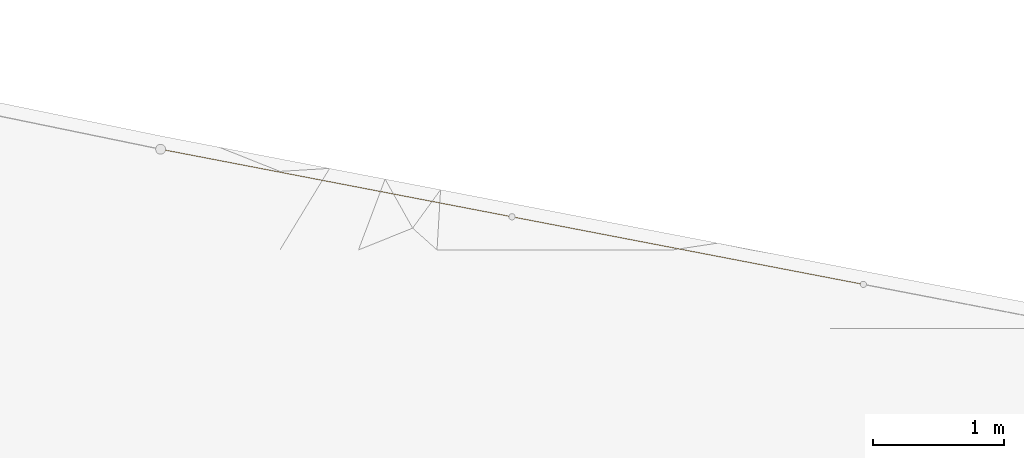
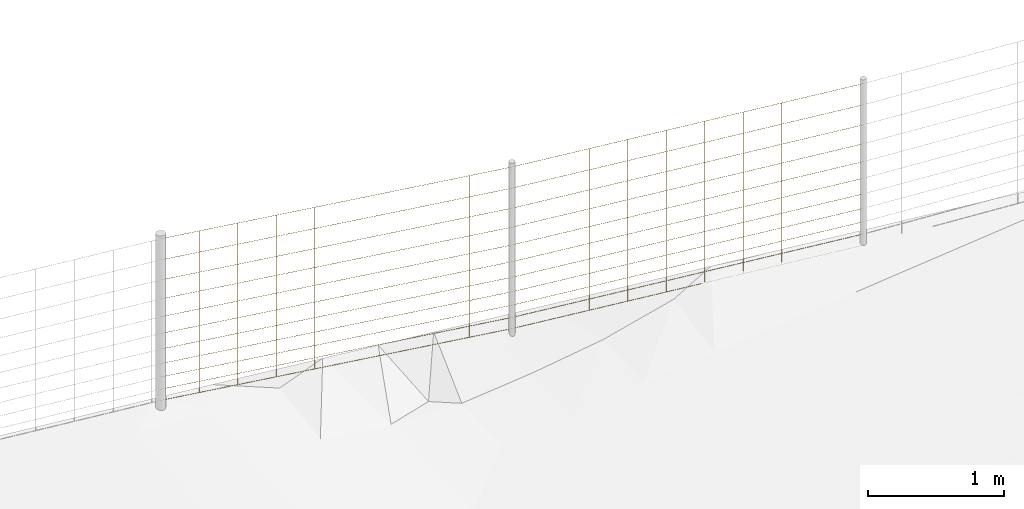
# Not in any storey, part 34 of 72: 2 railings.
"""IFC4 model written with IfcOpenShell, lengths in metres."""

from ifc_helpers import new_model, si_unit, direction, frame, origin_with_axes, place, context, subcontext, project, spatial, polygons, material, element, save


model = new_model("IFC4")

# Units and contexts
model_context = context("Model", 3, precision=1e-05, world=origin_with_axes(), true_north=direction((0.0, 1.0)))
body_context = subcontext(model_context, "Body", "Model", "MODEL_VIEW")
ifc_project = project(units=[si_unit("AREAUNIT", "SQUARE_METRE"), si_unit("VOLUMEUNIT", "CUBIC_METRE"), si_unit("LENGTHUNIT", "METRE")], contexts=[model_context])

# Site
site_placement = place(None, origin_with_axes())
site = spatial("IfcSite", under=ifc_project, at=site_placement, Name="Lares · Rua das Mercês · artigo 4771")

# Railings
ifc_material = material(Name="Aço galvanizado / Stahl verzinkt", Category="steel")
railing_1_placement = place(site_placement, frame((0.0, 0.0, 0.0), z_axis=(0.0, 0.0, 1.0), x_axis=(1.0, -1.03767253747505e-17, 0.0)))
element("IfcRailing", 1, at=railing_1_placement, inside=site, material=ifc_material, Name="Vedação · rede ovelheira 1.056", ObjectType="SHEEP_WIRE_FENCE", PredefinedType="USERDEFINED", context=body_context, shape_type="Tessellation", body=[
    polygons([(13.9818012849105, 21.8083476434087, 13.9714462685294), (13.9820942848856, 21.8098187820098, 13.9699463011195), (13.9823678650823, 21.8112936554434, 13.9714462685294), (13.9820748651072, 21.8098225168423, 13.9729462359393), (16.6662490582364, 21.2920717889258, 13.9894665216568), (16.6665420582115, 21.293542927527, 13.9879665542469), (16.6668156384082, 21.2950178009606, 13.9894665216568), (16.666522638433, 21.2935466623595, 13.9909664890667), (13.9818012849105, 21.8083476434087, 14.0714462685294), (13.9820942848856, 21.8098187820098, 14.0699463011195), (13.9823678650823, 21.8112936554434, 14.0714462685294), (13.9820748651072, 21.8098225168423, 14.0729462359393), (16.6662490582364, 21.2920717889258, 14.0894665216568), (16.6665420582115, 21.293542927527, 14.0879665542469), (16.6668156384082, 21.2950178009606, 14.0894665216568), (16.666522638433, 21.2935466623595, 14.0909664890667), (13.9818012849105, 21.8083476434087, 14.1814462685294), (13.9820942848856, 21.8098187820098, 14.1799463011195), (13.9823678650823, 21.8112936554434, 14.1814462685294), (13.9820748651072, 21.8098225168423, 14.1829462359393), (16.6662490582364, 21.2920717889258, 14.1994665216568), (16.6665420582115, 21.293542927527, 14.1979665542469), (16.6668156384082, 21.2950178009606, 14.1994665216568), (16.666522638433, 21.2935466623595, 14.2009664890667), (13.9818012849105, 21.8083476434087, 14.3014462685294), (13.9820942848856, 21.8098187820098, 14.2999463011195), (13.9823678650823, 21.8112936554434, 14.3014462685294), (13.9820748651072, 21.8098225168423, 14.3029462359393), (16.6662490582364, 21.2920717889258, 14.3194665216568), (16.6665420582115, 21.293542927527, 14.3179665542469), (16.6668156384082, 21.2950178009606, 14.3194665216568), (16.666522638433, 21.2935466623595, 14.3209664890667), (13.9818012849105, 21.8083476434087, 14.4314462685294), (13.9820942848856, 21.8098187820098, 14.4299463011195), (13.9823678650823, 21.8112936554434, 14.4314462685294), (13.9820748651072, 21.8098225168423, 14.4329462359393), (16.6662490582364, 21.2920717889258, 14.4494665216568), (16.6665420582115, 21.293542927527, 14.4479665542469), (16.6668156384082, 21.2950178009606, 14.4494665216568), (16.666522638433, 21.2935466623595, 14.4509664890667), (13.9818012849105, 21.8083476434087, 14.5714462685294), (13.9820942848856, 21.8098187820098, 14.5699463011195), (13.9823678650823, 21.8112936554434, 14.5714462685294), (13.9820748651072, 21.8098225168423, 14.5729462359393), (16.6662490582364, 21.2920717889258, 14.5894665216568), (16.6665420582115, 21.293542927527, 14.5879665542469), (16.6668156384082, 21.2950178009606, 14.5894665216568), (16.666522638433, 21.2935466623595, 14.5909664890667), (13.9818012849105, 21.8083476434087, 14.7214462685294), (13.9820942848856, 21.8098187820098, 14.7199463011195), (13.9823678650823, 21.8112936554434, 14.7214462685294), (13.9820748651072, 21.8098225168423, 14.7229462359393), (16.6662490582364, 21.2920717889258, 14.7394665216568), (16.6665420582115, 21.293542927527, 14.7379665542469), (16.6668156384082, 21.2950178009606, 14.7394665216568), (16.666522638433, 21.2935466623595, 14.7409664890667), (13.9818012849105, 21.8083476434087, 14.8814462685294), (13.9820942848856, 21.8098187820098, 14.8799463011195), (13.9823678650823, 21.8112936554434, 14.8814462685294), (13.9820748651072, 21.8098225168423, 14.8829462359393), (16.6662490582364, 21.2920717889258, 14.8994665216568), (16.6665420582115, 21.293542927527, 14.8979665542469), (16.6668156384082, 21.2950178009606, 14.8994665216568), (16.666522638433, 21.2935466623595, 14.9009664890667), (13.9818012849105, 21.8083476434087, 15.0514462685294), (13.9820942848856, 21.8098187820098, 15.0499463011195), (13.9823678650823, 21.8112936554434, 15.0514462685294), (13.9820748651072, 21.8098225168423, 15.0529462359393), (16.6662490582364, 21.2920717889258, 15.0694665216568), (16.6665420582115, 21.293542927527, 15.0679665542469), (16.6668156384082, 21.2950178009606, 15.0694665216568), (16.666522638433, 21.2935466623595, 15.0709664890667), (13.9818012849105, 21.8083476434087, 15.2314462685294), (13.9820942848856, 21.8098187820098, 15.2299463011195), (13.9823678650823, 21.8112936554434, 15.2314462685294), (13.9820748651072, 21.8098225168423, 15.2329462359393), (16.6662490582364, 21.2920717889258, 15.2494665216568), (16.6665420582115, 21.293542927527, 15.2479665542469), (16.6668156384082, 21.2950178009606, 15.2494665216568), (16.666522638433, 21.2935466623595, 15.2509664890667), (13.9818012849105, 21.8083476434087, 15.4214462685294), (13.9820942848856, 21.8098187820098, 15.4199463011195), (13.9823678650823, 21.8112936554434, 15.4214462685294), (13.9820748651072, 21.8098225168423, 15.4229462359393), (16.6662490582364, 21.2920717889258, 15.4394665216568), (16.6665420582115, 21.293542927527, 15.4379665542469), (16.6668156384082, 21.2950178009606, 15.4394665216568), (16.666522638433, 21.2935466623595, 15.4409664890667), (14.2766857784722, 21.7546626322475, 13.9734238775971), (14.2751857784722, 21.7531626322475, 13.9734238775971), (14.2766857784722, 21.7516626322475, 13.9734238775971), (14.2781857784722, 21.7531626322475, 13.9734238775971), (14.2766857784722, 21.7546626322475, 15.4234238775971), (14.2751857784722, 21.7531626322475, 15.4234238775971), (14.2766857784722, 21.7516626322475, 15.4234238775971), (14.2781857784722, 21.7531626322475, 15.4234238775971), (14.571286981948, 21.6980046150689, 13.9754014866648), (14.569786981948, 21.6965046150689, 13.9754014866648), (14.571286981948, 21.6950046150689, 13.9754014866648), (14.572786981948, 21.6965046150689, 13.9754014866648), (14.571286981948, 21.6980046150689, 15.4254014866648), (14.569786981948, 21.6965046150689, 15.4254014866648), (14.571286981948, 21.6950046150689, 15.4254014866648), (14.572786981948, 21.6965046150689, 15.4254014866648), (14.8658881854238, 21.6413465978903, 13.9773790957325), (14.8643881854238, 21.6398465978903, 13.9773790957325), (14.8658881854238, 21.6383465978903, 13.9773790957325), (14.8673881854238, 21.6398465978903, 13.9773790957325), (14.8658881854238, 21.6413465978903, 15.4273790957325), (14.8643881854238, 21.6398465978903, 15.4273790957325), (14.8658881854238, 21.6383465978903, 15.4273790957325), (14.8673881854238, 21.6398465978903, 15.4273790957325), (15.1604893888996, 21.5846885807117, 13.9793567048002), (15.1589893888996, 21.5831885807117, 13.9793567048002), (15.1604893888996, 21.5816885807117, 13.9793567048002), (15.1619893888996, 21.5831885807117, 13.9793567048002), (15.1604893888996, 21.5846885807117, 15.4293567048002), (15.1589893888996, 21.5831885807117, 15.4293567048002), (15.1604893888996, 21.5816885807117, 15.4293567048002), (15.1619893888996, 21.5831885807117, 15.4293567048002), (15.4550905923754, 21.5280305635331, 13.9813343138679), (15.4535905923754, 21.5265305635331, 13.9813343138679), (15.4550905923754, 21.5250305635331, 13.9813343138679), (15.4565905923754, 21.5265305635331, 13.9813343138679), (15.4550905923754, 21.5280305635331, 15.4313343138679), (15.4535905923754, 21.5265305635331, 15.4313343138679), (15.4550905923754, 21.5250305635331, 15.4313343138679), (15.4565905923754, 21.5265305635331, 15.4313343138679), (15.7496917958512, 21.4713725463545, 13.9833119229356), (15.7481917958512, 21.4698725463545, 13.9833119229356), (15.7496917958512, 21.4683725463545, 13.9833119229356), (15.7511917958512, 21.4698725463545, 13.9833119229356), (15.7496917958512, 21.4713725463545, 15.4333119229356), (15.7481917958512, 21.4698725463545, 15.4333119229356), (15.7496917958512, 21.4683725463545, 15.4333119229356), (15.7511917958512, 21.4698725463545, 15.4333119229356), (16.044292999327, 21.4147145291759, 13.9852895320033), (16.042792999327, 21.4132145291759, 13.9852895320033), (16.044292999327, 21.4117145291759, 13.9852895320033), (16.045792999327, 21.4132145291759, 13.9852895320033), (16.044292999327, 21.4147145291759, 15.4352895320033), (16.042792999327, 21.4132145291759, 15.4352895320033), (16.044292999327, 21.4117145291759, 15.4352895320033), (16.045792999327, 21.4132145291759, 15.4352895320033), (16.3388942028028, 21.3580565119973, 13.9872671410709), (16.3373942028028, 21.3565565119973, 13.9872671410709), (16.3388942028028, 21.3550565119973, 13.9872671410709), (16.3403942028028, 21.3565565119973, 13.9872671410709), (16.3388942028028, 21.3580565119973, 15.4372671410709), (16.3373942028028, 21.3565565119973, 15.4372671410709), (16.3388942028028, 21.3550565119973, 15.4372671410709), (16.3403942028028, 21.3565565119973, 15.4372671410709)], [[[4, 3, 2, 1]], [[5, 6, 7, 8]], [[1, 2, 6, 5]], [[2, 3, 7, 6]], [[3, 4, 8, 7]], [[4, 1, 5, 8]], [[12, 11, 10, 9]], [[13, 14, 15, 16]], [[9, 10, 14, 13]], [[10, 11, 15, 14]], [[11, 12, 16, 15]], [[12, 9, 13, 16]], [[20, 19, 18, 17]], [[21, 22, 23, 24]], [[17, 18, 22, 21]], [[18, 19, 23, 22]], [[19, 20, 24, 23]], [[20, 17, 21, 24]], [[28, 27, 26, 25]], [[29, 30, 31, 32]], [[25, 26, 30, 29]], [[26, 27, 31, 30]], [[27, 28, 32, 31]], [[28, 25, 29, 32]], [[36, 35, 34, 33]], [[37, 38, 39, 40]], [[33, 34, 38, 37]], [[34, 35, 39, 38]], [[35, 36, 40, 39]], [[36, 33, 37, 40]], [[44, 43, 42, 41]], [[45, 46, 47, 48]], [[41, 42, 46, 45]], [[42, 43, 47, 46]], [[43, 44, 48, 47]], [[44, 41, 45, 48]], [[52, 51, 50, 49]], [[53, 54, 55, 56]], [[49, 50, 54, 53]], [[50, 51, 55, 54]], [[51, 52, 56, 55]], [[52, 49, 53, 56]], [[60, 59, 58, 57]], [[61, 62, 63, 64]], [[57, 58, 62, 61]], [[58, 59, 63, 62]], [[59, 60, 64, 63]], [[60, 57, 61, 64]], [[68, 67, 66, 65]], [[69, 70, 71, 72]], [[65, 66, 70, 69]], [[66, 67, 71, 70]], [[67, 68, 72, 71]], [[68, 65, 69, 72]], [[76, 75, 74, 73]], [[77, 78, 79, 80]], [[73, 74, 78, 77]], [[74, 75, 79, 78]], [[75, 76, 80, 79]], [[76, 73, 77, 80]], [[84, 83, 82, 81]], [[85, 86, 87, 88]], [[81, 82, 86, 85]], [[82, 83, 87, 86]], [[83, 84, 88, 87]], [[84, 81, 85, 88]], [[92, 91, 90, 89]], [[93, 94, 95, 96]], [[89, 90, 94, 93]], [[90, 91, 95, 94]], [[91, 92, 96, 95]], [[92, 89, 93, 96]], [[100, 99, 98, 97]], [[101, 102, 103, 104]], [[97, 98, 102, 101]], [[98, 99, 103, 102]], [[99, 100, 104, 103]], [[100, 97, 101, 104]], [[108, 107, 106, 105]], [[109, 110, 111, 112]], [[105, 106, 110, 109]], [[106, 107, 111, 110]], [[107, 108, 112, 111]], [[108, 105, 109, 112]], [[116, 115, 114, 113]], [[117, 118, 119, 120]], [[113, 114, 118, 117]], [[114, 115, 119, 118]], [[115, 116, 120, 119]], [[116, 113, 117, 120]], [[124, 123, 122, 121]], [[125, 126, 127, 128]], [[121, 122, 126, 125]], [[122, 123, 127, 126]], [[123, 124, 128, 127]], [[124, 121, 125, 128]], [[132, 131, 130, 129]], [[133, 134, 135, 136]], [[129, 130, 134, 133]], [[130, 131, 135, 134]], [[131, 132, 136, 135]], [[132, 129, 133, 136]], [[140, 139, 138, 137]], [[141, 142, 143, 144]], [[137, 138, 142, 141]], [[138, 139, 143, 142]], [[139, 140, 144, 143]], [[140, 137, 141, 144]], [[148, 147, 146, 145]], [[149, 150, 151, 152]], [[145, 146, 150, 149]], [[146, 147, 151, 150]], [[147, 148, 152, 151]], [[148, 145, 149, 152]]]),
])
railing_2_placement = place(site_placement, frame((0.0, 0.0, 0.0), z_axis=(0.0, 0.0, 1.0), x_axis=(1.0, -1.03767253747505e-17, 0.0)))
element("IfcRailing", 2, at=railing_2_placement, inside=site, material=ifc_material, Name="Vedação · rede ovelheira 1.057", ObjectType="SHEEP_WIRE_FENCE", PredefinedType="USERDEFINED", context=body_context, shape_type="Tessellation", body=[
    polygons([(16.6662490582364, 21.2920717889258, 13.9894665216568), (16.6665978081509, 21.2935322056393, 13.9879680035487), (16.6668156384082, 21.2950178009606, 13.9894665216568), (16.6664668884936, 21.2935573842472, 13.9909650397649), (19.3506968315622, 20.775795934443, 14.1110686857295), (19.3510455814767, 20.7772563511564, 14.1095701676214), (19.351263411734, 20.7787419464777, 14.1110686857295), (19.3509146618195, 20.7772815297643, 14.1125672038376), (16.6662490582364, 21.2920717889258, 14.0894665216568), (16.6665978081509, 21.2935322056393, 14.0879680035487), (16.6668156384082, 21.2950178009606, 14.0894665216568), (16.6664668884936, 21.2935573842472, 14.0909650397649), (19.3506968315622, 20.775795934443, 14.2110686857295), (19.3510455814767, 20.7772563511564, 14.2095701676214), (19.351263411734, 20.7787419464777, 14.2110686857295), (19.3509146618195, 20.7772815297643, 14.2125672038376), (16.6662490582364, 21.2920717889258, 14.1994665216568), (16.6665978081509, 21.2935322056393, 14.1979680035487), (16.6668156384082, 21.2950178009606, 14.1994665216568), (16.6664668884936, 21.2935573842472, 14.2009650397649), (19.3506968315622, 20.775795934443, 14.3210686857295), (19.3510455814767, 20.7772563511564, 14.3195701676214), (19.351263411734, 20.7787419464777, 14.3210686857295), (19.3509146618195, 20.7772815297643, 14.3225672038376), (16.6662490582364, 21.2920717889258, 14.3194665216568), (16.6665978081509, 21.2935322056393, 14.3179680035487), (16.6668156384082, 21.2950178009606, 14.3194665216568), (16.6664668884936, 21.2935573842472, 14.3209650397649), (19.3506968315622, 20.775795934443, 14.4410686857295), (19.3510455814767, 20.7772563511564, 14.4395701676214), (19.351263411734, 20.7787419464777, 14.4410686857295), (19.3509146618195, 20.7772815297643, 14.4425672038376), (16.6662490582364, 21.2920717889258, 14.4494665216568), (16.6665978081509, 21.2935322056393, 14.4479680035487), (16.6668156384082, 21.2950178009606, 14.4494665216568), (16.6664668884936, 21.2935573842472, 14.4509650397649), (19.3506968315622, 20.775795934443, 14.5710686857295), (19.3510455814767, 20.7772563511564, 14.5695701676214), (19.351263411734, 20.7787419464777, 14.5710686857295), (19.3509146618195, 20.7772815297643, 14.5725672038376), (16.6662490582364, 21.2920717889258, 14.5894665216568), (16.6665978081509, 21.2935322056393, 14.5879680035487), (16.6668156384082, 21.2950178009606, 14.5894665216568), (16.6664668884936, 21.2935573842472, 14.5909650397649), (19.3506968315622, 20.775795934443, 14.7110686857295), (19.3510455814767, 20.7772563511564, 14.7095701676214), (19.351263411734, 20.7787419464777, 14.7110686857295), (19.3509146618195, 20.7772815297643, 14.7125672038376), (16.6662490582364, 21.2920717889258, 14.7394665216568), (16.6665978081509, 21.2935322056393, 14.7379680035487), (16.6668156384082, 21.2950178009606, 14.7394665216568), (16.6664668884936, 21.2935573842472, 14.7409650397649), (19.3506968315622, 20.775795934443, 14.8610686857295), (19.3510455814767, 20.7772563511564, 14.8595701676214), (19.351263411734, 20.7787419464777, 14.8610686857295), (19.3509146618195, 20.7772815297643, 14.8625672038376), (16.6662490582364, 21.2920717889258, 14.8994665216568), (16.6665978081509, 21.2935322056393, 14.8979680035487), (16.6668156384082, 21.2950178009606, 14.8994665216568), (16.6664668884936, 21.2935573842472, 14.9009650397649), (19.3506968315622, 20.775795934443, 15.0210686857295), (19.3510455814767, 20.7772563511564, 15.0195701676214), (19.351263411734, 20.7787419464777, 15.0210686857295), (19.3509146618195, 20.7772815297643, 15.0225672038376), (16.6662490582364, 21.2920717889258, 15.0694665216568), (16.6665978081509, 21.2935322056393, 15.0679680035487), (16.6668156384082, 21.2950178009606, 15.0694665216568), (16.6664668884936, 21.2935573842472, 15.0709650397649), (19.3506968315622, 20.775795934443, 15.1910686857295), (19.3510455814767, 20.7772563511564, 15.1895701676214), (19.351263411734, 20.7787419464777, 15.1910686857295), (19.3509146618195, 20.7772815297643, 15.1925672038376), (16.6662490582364, 21.2920717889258, 15.2494665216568), (16.6665978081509, 21.2935322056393, 15.2479680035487), (16.6668156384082, 21.2950178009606, 15.2494665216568), (16.6664668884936, 21.2935573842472, 15.2509650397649), (19.3506968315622, 20.775795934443, 15.3710686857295), (19.3510455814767, 20.7772563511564, 15.3695701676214), (19.351263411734, 20.7787419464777, 15.3710686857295), (19.3509146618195, 20.7772815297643, 15.3725672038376), (16.6662490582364, 21.2920717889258, 15.4394665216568), (16.6665978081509, 21.2935322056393, 15.4379680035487), (16.6668156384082, 21.2950178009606, 15.4394665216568), (16.6664668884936, 21.2935573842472, 15.4409650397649), (19.3506968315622, 20.775795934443, 15.5610686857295), (19.3510455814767, 20.7772563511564, 15.5595701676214), (19.351263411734, 20.7787419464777, 15.5610686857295), (19.3509146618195, 20.7772815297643, 15.5625672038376), (16.9611335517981, 21.2383867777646, 14.0028115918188), (16.9596335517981, 21.2368867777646, 14.0028115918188), (16.9611335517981, 21.2353867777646, 14.0028115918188), (16.9626335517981, 21.2368867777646, 14.0028115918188), (16.9611335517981, 21.2383867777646, 15.4528115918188), (16.9596335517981, 21.2368867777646, 15.4528115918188), (16.9611335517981, 21.2353867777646, 15.4528115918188), (16.9626335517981, 21.2368867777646, 15.4528115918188), (17.2557347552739, 21.181728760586, 14.0161566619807), (17.2542347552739, 21.180228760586, 14.0161566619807), (17.2557347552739, 21.178728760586, 14.0161566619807), (17.2572347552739, 21.180228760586, 14.0161566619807), (17.2557347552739, 21.181728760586, 15.4661566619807), (17.2542347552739, 21.180228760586, 15.4661566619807), (17.2557347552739, 21.178728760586, 15.4661566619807), (17.2572347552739, 21.180228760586, 15.4661566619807), (17.5503359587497, 21.1250707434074, 14.0295017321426), (17.5488359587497, 21.1235707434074, 14.0295017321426), (17.5503359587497, 21.1220707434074, 14.0295017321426), (17.5518359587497, 21.1235707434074, 14.0295017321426), (17.5503359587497, 21.1250707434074, 15.4795017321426), (17.5488359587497, 21.1235707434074, 15.4795017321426), (17.5503359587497, 21.1220707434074, 15.4795017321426), (17.5518359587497, 21.1235707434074, 15.4795017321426), (17.8449371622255, 21.0684127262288, 14.0428468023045), (17.8434371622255, 21.0669127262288, 14.0428468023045), (17.8449371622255, 21.0654127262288, 14.0428468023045), (17.8464371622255, 21.0669127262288, 14.0428468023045), (17.8449371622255, 21.0684127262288, 15.4928468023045), (17.8434371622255, 21.0669127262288, 15.4928468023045), (17.8449371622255, 21.0654127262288, 15.4928468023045), (17.8464371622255, 21.0669127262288, 15.4928468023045), (18.1395383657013, 21.0117547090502, 14.0561918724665), (18.1380383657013, 21.0102547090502, 14.0561918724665), (18.1395383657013, 21.0087547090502, 14.0561918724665), (18.1410383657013, 21.0102547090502, 14.0561918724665), (18.1395383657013, 21.0117547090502, 15.5061918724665), (18.1380383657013, 21.0102547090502, 15.5061918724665), (18.1395383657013, 21.0087547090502, 15.5061918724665), (18.1410383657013, 21.0102547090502, 15.5061918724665), (18.4341395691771, 20.9550966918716, 14.0695369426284), (18.4326395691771, 20.9535966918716, 14.0695369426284), (18.4341395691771, 20.9520966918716, 14.0695369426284), (18.4356395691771, 20.9535966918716, 14.0695369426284), (18.4341395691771, 20.9550966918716, 15.5195369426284), (18.4326395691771, 20.9535966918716, 15.5195369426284), (18.4341395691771, 20.9520966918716, 15.5195369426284), (18.4356395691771, 20.9535966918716, 15.5195369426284), (18.7287407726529, 20.898438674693, 14.0828820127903), (18.7272407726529, 20.896938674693, 14.0828820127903), (18.7287407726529, 20.895438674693, 14.0828820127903), (18.7302407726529, 20.896938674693, 14.0828820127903), (18.7287407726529, 20.898438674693, 15.5328820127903), (18.7272407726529, 20.896938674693, 15.5328820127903), (18.7287407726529, 20.895438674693, 15.5328820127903), (18.7302407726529, 20.896938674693, 15.5328820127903), (19.0233419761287, 20.8417806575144, 14.0962270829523), (19.0218419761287, 20.8402806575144, 14.0962270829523), (19.0233419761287, 20.8387806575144, 14.0962270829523), (19.0248419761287, 20.8402806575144, 14.0962270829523), (19.0233419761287, 20.8417806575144, 15.5462270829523), (19.0218419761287, 20.8402806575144, 15.5462270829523), (19.0233419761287, 20.8387806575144, 15.5462270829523), (19.0248419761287, 20.8402806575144, 15.5462270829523)], [[[4, 3, 2, 1]], [[5, 6, 7, 8]], [[1, 2, 6, 5]], [[2, 3, 7, 6]], [[3, 4, 8, 7]], [[4, 1, 5, 8]], [[12, 11, 10, 9]], [[13, 14, 15, 16]], [[9, 10, 14, 13]], [[10, 11, 15, 14]], [[11, 12, 16, 15]], [[12, 9, 13, 16]], [[20, 19, 18, 17]], [[21, 22, 23, 24]], [[17, 18, 22, 21]], [[18, 19, 23, 22]], [[19, 20, 24, 23]], [[20, 17, 21, 24]], [[28, 27, 26, 25]], [[29, 30, 31, 32]], [[25, 26, 30, 29]], [[26, 27, 31, 30]], [[27, 28, 32, 31]], [[28, 25, 29, 32]], [[36, 35, 34, 33]], [[37, 38, 39, 40]], [[33, 34, 38, 37]], [[34, 35, 39, 38]], [[35, 36, 40, 39]], [[36, 33, 37, 40]], [[44, 43, 42, 41]], [[45, 46, 47, 48]], [[41, 42, 46, 45]], [[42, 43, 47, 46]], [[43, 44, 48, 47]], [[44, 41, 45, 48]], [[52, 51, 50, 49]], [[53, 54, 55, 56]], [[49, 50, 54, 53]], [[50, 51, 55, 54]], [[51, 52, 56, 55]], [[52, 49, 53, 56]], [[60, 59, 58, 57]], [[61, 62, 63, 64]], [[57, 58, 62, 61]], [[58, 59, 63, 62]], [[59, 60, 64, 63]], [[60, 57, 61, 64]], [[68, 67, 66, 65]], [[69, 70, 71, 72]], [[65, 66, 70, 69]], [[66, 67, 71, 70]], [[67, 68, 72, 71]], [[68, 65, 69, 72]], [[76, 75, 74, 73]], [[77, 78, 79, 80]], [[73, 74, 78, 77]], [[74, 75, 79, 78]], [[75, 76, 80, 79]], [[76, 73, 77, 80]], [[84, 83, 82, 81]], [[85, 86, 87, 88]], [[81, 82, 86, 85]], [[82, 83, 87, 86]], [[83, 84, 88, 87]], [[84, 81, 85, 88]], [[92, 91, 90, 89]], [[93, 94, 95, 96]], [[89, 90, 94, 93]], [[90, 91, 95, 94]], [[91, 92, 96, 95]], [[92, 89, 93, 96]], [[100, 99, 98, 97]], [[101, 102, 103, 104]], [[97, 98, 102, 101]], [[98, 99, 103, 102]], [[99, 100, 104, 103]], [[100, 97, 101, 104]], [[108, 107, 106, 105]], [[109, 110, 111, 112]], [[105, 106, 110, 109]], [[106, 107, 111, 110]], [[107, 108, 112, 111]], [[108, 105, 109, 112]], [[116, 115, 114, 113]], [[117, 118, 119, 120]], [[113, 114, 118, 117]], [[114, 115, 119, 118]], [[115, 116, 120, 119]], [[116, 113, 117, 120]], [[124, 123, 122, 121]], [[125, 126, 127, 128]], [[121, 122, 126, 125]], [[122, 123, 127, 126]], [[123, 124, 128, 127]], [[124, 121, 125, 128]], [[132, 131, 130, 129]], [[133, 134, 135, 136]], [[129, 130, 134, 133]], [[130, 131, 135, 134]], [[131, 132, 136, 135]], [[132, 129, 133, 136]], [[140, 139, 138, 137]], [[141, 142, 143, 144]], [[137, 138, 142, 141]], [[138, 139, 143, 142]], [[139, 140, 144, 143]], [[140, 137, 141, 144]], [[148, 147, 146, 145]], [[149, 150, 151, 152]], [[145, 146, 150, 149]], [[146, 147, 151, 150]], [[147, 148, 152, 151]], [[148, 145, 149, 152]]]),
])

save(model, "model.ifc")
